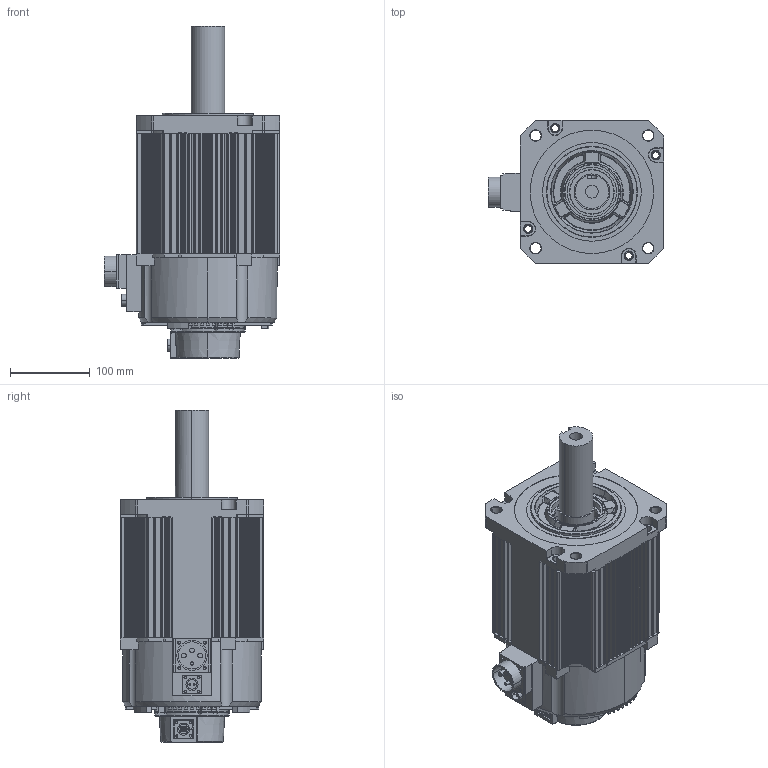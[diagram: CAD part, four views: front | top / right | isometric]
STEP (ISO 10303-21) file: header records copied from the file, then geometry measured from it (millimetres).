
FILE_DESCRIPTION(('CATIA V5 STEP Exchange'),'2;1');
FILE_NAME('F:\公司\180- 5对极\180A-35015\3D\180AST-35015HBZ\180AST-35015HBZ-ZZP.stp','2021-08-17T06:26:39+00:00',('none'),('none'),'CATIA Version 5 Release 20 GA (IN-10)','CATIA V5 STEP AP203','none');
FILE_SCHEMA(('CONFIG_CONTROL_DESIGN'));
Products named in the file (1): 180AST-35015HBZ-ZZP
Bounding box: 220 x 180 x 417 mm (x, y, z)
Volume: 3046448.4 mm3; surface area: 813065.5 mm2
Topology: 3 solids, 3 shells, 2660 faces, 6803 edges, 4243 vertices
Faces by surface type: cylinder 1157, plane 956, torus 279, bspline 162, sphere 74, cone 32
Entity records: 82406 total; most frequent: CARTESIAN_POINT 23402, ORIENTED_EDGE 13508, DIRECTION 9614, EDGE_CURVE 6754, AXIS2_PLACEMENT_3D 4777, VERTEX_POINT 4243, VECTOR 3122, LINE 3122
